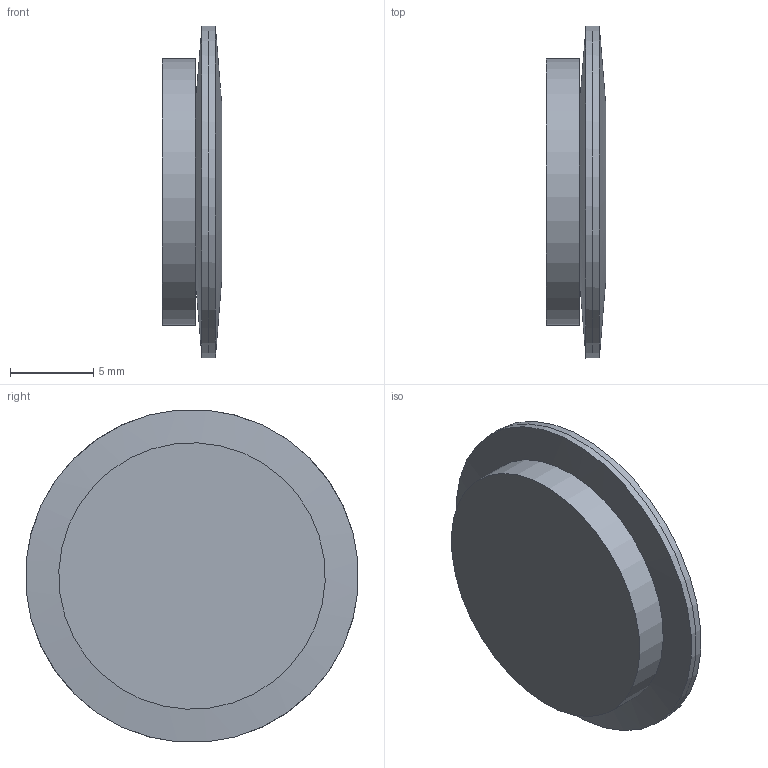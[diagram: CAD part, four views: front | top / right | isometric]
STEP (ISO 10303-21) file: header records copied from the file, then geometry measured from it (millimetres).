
FILE_DESCRIPTION(/* description */ ('','CAx-IF Rec.Pracs.---Representation and Presentation of Product Manufacturing Information (PMI)---3.8---2014-02-18'),/* implementation_level */ '2;1');
FILE_NAME(/* name */ 'C:\ADSK_DM_WS\CAD_3D\03 Geraete\RIII 55x56x60\Zeichnungen\RIII 55x56x60 Einbaurahmen geschraubt.stp',/* time_stamp */ '2018-06-08T07:01:24+02:00',/* author */ ('cpi'),/* organization */ (''),/* preprocessor_version */ 'ST-DEVELOPER v16.1',/* originating_system */ 'Autodesk Inventor 2016',/* authorisation */ '');
FILE_SCHEMA (('AP242_MANAGED_MODEL_BASED_3D_ENGINEERING_MIM_LF { 1 0 10303 442 1 1 4 }'));
Length unit declared in the file: centimetre
Products named in the file (1): 2018-00505
Bounding box: 3.6 x 19.93 x 19.93 mm (x, y, z)
Volume: 681.8 mm3; surface area: 2342.7 mm2
Topology: 3 solids, 3 shells, 12 faces, 19 edges, 10 vertices
Faces by surface type: cylinder 5, cone 4, plane 3
Full cylindrical faces by diameter (mm): 10.21 x2, 16 x1, 20 x2
Entity records: 18135 total; most frequent: CARTESIAN_POINT 3395, ORIENTED_EDGE 3054, DIRECTION 3029, EDGE_CURVE 1520, AXIS2_PLACEMENT_3D 1016, LINE 997, VECTOR 997, VERTEX_POINT 958
